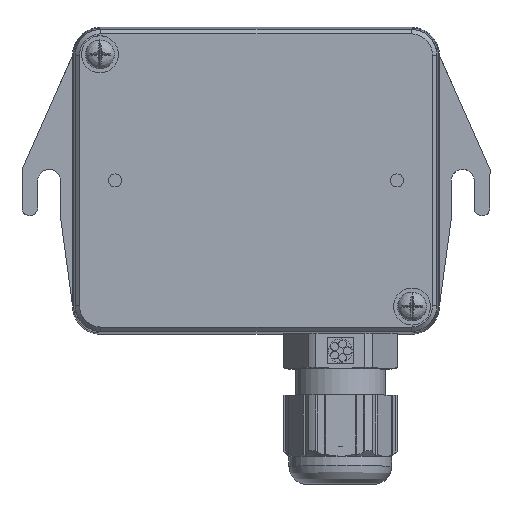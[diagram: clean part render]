
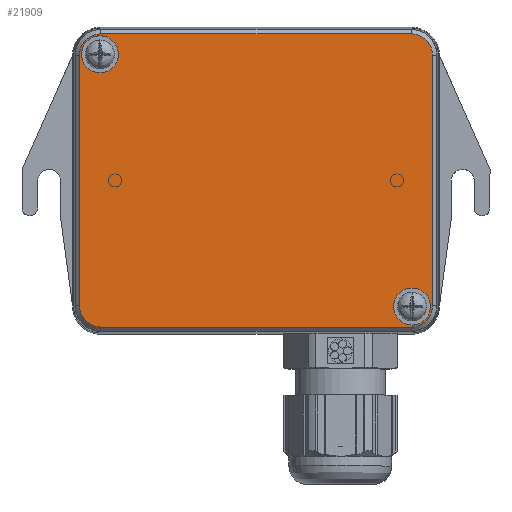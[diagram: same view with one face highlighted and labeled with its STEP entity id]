
A CAD part, top view. The second image highlights one B-rep face of the part: STEP entity #21909.
In plain terms, the highlighted planar face has unit normal (0, 0, 1).
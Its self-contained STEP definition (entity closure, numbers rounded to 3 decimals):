
#504 = DIRECTION ( 'NONE',  ( 1., 0., 0. ) ) ;
#829 = ORIENTED_EDGE ( 'NONE', *, *, #27133, .T. ) ;
#848 = ORIENTED_EDGE ( 'NONE', *, *, #12123, .T. ) ;
#992 = VECTOR ( 'NONE', #26182, 1000. ) ;
#1256 = DIRECTION ( 'NONE',  ( 0., 0., 1. ) ) ;
#1265 = VECTOR ( 'NONE', #10868, 1000. ) ;
#1452 = DIRECTION ( 'NONE',  ( -1., 0., 0. ) ) ;
#1536 = DIRECTION ( 'NONE',  ( -1., 0., 0. ) ) ;
#1568 = AXIS2_PLACEMENT_3D ( 'NONE', #15039, #24292, #3548 ) ;
#1600 = ORIENTED_EDGE ( 'NONE', *, *, #3248, .T. ) ;
#1662 = LINE ( 'NONE', #29191, #1265 ) ;
#1823 = EDGE_CURVE ( 'NONE', #7083, #18347, #1864, .T. ) ;
#1864 = CIRCLE ( 'NONE', #13445, 3.4 ) ;
#1943 = CARTESIAN_POINT ( 'NONE',  ( -32.604, 23.139, 7.571 ) ) ;
#2169 = VERTEX_POINT ( 'NONE', #25012 ) ;
#2172 = DIRECTION ( 'NONE',  ( 0., 0., 1. ) ) ;
#2427 = CARTESIAN_POINT ( 'NONE',  ( 32.27, 23.139, 7.571 ) ) ;
#2431 = VERTEX_POINT ( 'NONE', #2427 ) ;
#3034 = CARTESIAN_POINT ( 'NONE',  ( -0.167, 0.14, 7.571 ) ) ;
#3248 = EDGE_CURVE ( 'NONE', #2431, #23513, #22694, .T. ) ;
#3548 = DIRECTION ( 'NONE',  ( -1., 0., 0. ) ) ;
#4479 = DIRECTION ( 'NONE',  ( -1., 0., 0. ) ) ;
#4884 = DIRECTION ( 'NONE',  ( -1., 0., 0. ) ) ;
#5044 = CIRCLE ( 'NONE', #14680, 3.4 ) ;
#5299 = CIRCLE ( 'NONE', #26560, 3.938 ) ;
#5362 = CARTESIAN_POINT ( 'NONE',  ( 28.332, -26.798, 7.571 ) ) ;
#5728 = CARTESIAN_POINT ( 'NONE',  ( -28.841, 23.314, 7.571 ) ) ;
#5797 = ORIENTED_EDGE ( 'NONE', *, *, #12945, .T. ) ;
#6114 = EDGE_CURVE ( 'NONE', #18860, #18407, #1662, .T. ) ;
#6132 = DIRECTION ( 'NONE',  ( 0., 0., -1. ) ) ;
#6598 = DIRECTION ( 'NONE',  ( 0., 0., 1. ) ) ;
#7083 = VERTEX_POINT ( 'NONE', #10320 ) ;
#7280 = FACE_BOUND ( 'NONE', #25838, .T. ) ;
#7298 = EDGE_LOOP ( 'NONE', ( #14791, #12383 ) ) ;
#7447 = CARTESIAN_POINT ( 'NONE',  ( -32.604, -22.859, 7.571 ) ) ;
#7484 = AXIS2_PLACEMENT_3D ( 'NONE', #16383, #2172, #4884 ) ;
#7495 = CARTESIAN_POINT ( 'NONE',  ( 28.507, -23.034, 7.571 ) ) ;
#7860 = AXIS2_PLACEMENT_3D ( 'NONE', #10655, #6132, #1452 ) ;
#7872 = DIRECTION ( 'NONE',  ( 0., 0., 1. ) ) ;
#8177 = CARTESIAN_POINT ( 'NONE',  ( 32.27, -22.859, 7.571 ) ) ;
#8428 = DIRECTION ( 'NONE',  ( 0., 1., 0. ) ) ;
#8874 = CARTESIAN_POINT ( 'NONE',  ( 32.27, 0.14, 7.571 ) ) ;
#10320 = CARTESIAN_POINT ( 'NONE',  ( 31.907, -23.034, 7.571 ) ) ;
#10407 = DIRECTION ( 'NONE',  ( -1., 0., 0. ) ) ;
#10450 = VERTEX_POINT ( 'NONE', #15453 ) ;
#10655 = CARTESIAN_POINT ( 'NONE',  ( 28.507, -23.034, 7.571 ) ) ;
#10868 = DIRECTION ( 'NONE',  ( 1., 0., 0. ) ) ;
#11642 = EDGE_CURVE ( 'NONE', #23513, #2169, #29864, .T. ) ;
#11718 = CARTESIAN_POINT ( 'NONE',  ( 25.107, -23.034, 7.571 ) ) ;
#11879 = DIRECTION ( 'NONE',  ( -1., 0., 0. ) ) ;
#12106 = FACE_BOUND ( 'NONE', #7298, .T. ) ;
#12123 = EDGE_CURVE ( 'NONE', #18407, #18843, #5299, .T. ) ;
#12383 = ORIENTED_EDGE ( 'NONE', *, *, #1823, .T. ) ;
#12896 = CARTESIAN_POINT ( 'NONE',  ( 28.332, 27.078, 7.571 ) ) ;
#12945 = EDGE_CURVE ( 'NONE', #2169, #20155, #25224, .T. ) ;
#13121 = VERTEX_POINT ( 'NONE', #28081 ) ;
#13445 = AXIS2_PLACEMENT_3D ( 'NONE', #7495, #23405, #11879 ) ;
#14257 = DIRECTION ( 'NONE',  ( -1., 0., 0. ) ) ;
#14352 = EDGE_CURVE ( 'NONE', #10450, #13121, #14593, .T. ) ;
#14593 = CIRCLE ( 'NONE', #1568, 3.4 ) ;
#14680 = AXIS2_PLACEMENT_3D ( 'NONE', #5728, #26618, #10407 ) ;
#14791 = ORIENTED_EDGE ( 'NONE', *, *, #15463, .T. ) ;
#15039 = CARTESIAN_POINT ( 'NONE',  ( -28.841, 23.314, 7.571 ) ) ;
#15175 = AXIS2_PLACEMENT_3D ( 'NONE', #3034, #23642, #504 ) ;
#15453 = CARTESIAN_POINT ( 'NONE',  ( -32.241, 23.314, 7.571 ) ) ;
#15463 = EDGE_CURVE ( 'NONE', #18347, #7083, #15582, .T. ) ;
#15582 = CIRCLE ( 'NONE', #7860, 3.4 ) ;
#15987 = ORIENTED_EDGE ( 'NONE', *, *, #14352, .T. ) ;
#16066 = VERTEX_POINT ( 'NONE', #7447 ) ;
#16383 = CARTESIAN_POINT ( 'NONE',  ( -28.666, -22.859, 7.571 ) ) ;
#16478 = EDGE_CURVE ( 'NONE', #20155, #16066, #16928, .T. ) ;
#16928 = LINE ( 'NONE', #28581, #992 ) ;
#17106 = DIRECTION ( 'NONE',  ( -1., 0., 0. ) ) ;
#18347 = VERTEX_POINT ( 'NONE', #11718 ) ;
#18407 = VERTEX_POINT ( 'NONE', #5362 ) ;
#18843 = VERTEX_POINT ( 'NONE', #8177 ) ;
#18860 = VERTEX_POINT ( 'NONE', #20606 ) ;
#20155 = VERTEX_POINT ( 'NONE', #1943 ) ;
#20308 = CARTESIAN_POINT ( 'NONE',  ( 28.332, -22.859, 7.571 ) ) ;
#20606 = CARTESIAN_POINT ( 'NONE',  ( -28.666, -26.798, 7.571 ) ) ;
#21343 = EDGE_LOOP ( 'NONE', ( #829, #1600, #25003, #5797, #28200, #25884, #26043, #848 ) ) ;
#21909 = ADVANCED_FACE ( 'NONE', ( #7280, #12106, #25910 ), #26744, .T. ) ;
#22694 = CIRCLE ( 'NONE', #26109, 3.938 ) ;
#23405 = DIRECTION ( 'NONE',  ( 0., 0., -1. ) ) ;
#23513 = VERTEX_POINT ( 'NONE', #12896 ) ;
#23642 = DIRECTION ( 'NONE',  ( 0., 0., 1. ) ) ;
#24292 = DIRECTION ( 'NONE',  ( 0., 0., -1. ) ) ;
#24940 = LINE ( 'NONE', #8874, #26305 ) ;
#25003 = ORIENTED_EDGE ( 'NONE', *, *, #11642, .T. ) ;
#25012 = CARTESIAN_POINT ( 'NONE',  ( -28.666, 27.078, 7.571 ) ) ;
#25224 = CIRCLE ( 'NONE', #29541, 3.938 ) ;
#25346 = CARTESIAN_POINT ( 'NONE',  ( -0.167, 27.078, 7.571 ) ) ;
#25838 = EDGE_LOOP ( 'NONE', ( #15987, #28635 ) ) ;
#25884 = ORIENTED_EDGE ( 'NONE', *, *, #27970, .T. ) ;
#25910 = FACE_OUTER_BOUND ( 'NONE', #21343, .T. ) ;
#26043 = ORIENTED_EDGE ( 'NONE', *, *, #6114, .T. ) ;
#26109 = AXIS2_PLACEMENT_3D ( 'NONE', #28611, #7872, #17106 ) ;
#26182 = DIRECTION ( 'NONE',  ( 0., -1., 0. ) ) ;
#26305 = VECTOR ( 'NONE', #8428, 1000. ) ;
#26560 = AXIS2_PLACEMENT_3D ( 'NONE', #20308, #1256, #1536 ) ;
#26618 = DIRECTION ( 'NONE',  ( 0., 0., -1. ) ) ;
#26744 = PLANE ( 'NONE',  #15175 ) ;
#27017 = VECTOR ( 'NONE', #14257, 1000. ) ;
#27036 = EDGE_CURVE ( 'NONE', #13121, #10450, #5044, .T. ) ;
#27133 = EDGE_CURVE ( 'NONE', #18843, #2431, #24940, .T. ) ;
#27350 = CARTESIAN_POINT ( 'NONE',  ( -28.666, 23.139, 7.571 ) ) ;
#27970 = EDGE_CURVE ( 'NONE', #16066, #18860, #29701, .T. ) ;
#28081 = CARTESIAN_POINT ( 'NONE',  ( -25.441, 23.314, 7.571 ) ) ;
#28200 = ORIENTED_EDGE ( 'NONE', *, *, #16478, .T. ) ;
#28581 = CARTESIAN_POINT ( 'NONE',  ( -32.604, 0.14, 7.571 ) ) ;
#28611 = CARTESIAN_POINT ( 'NONE',  ( 28.332, 23.139, 7.571 ) ) ;
#28635 = ORIENTED_EDGE ( 'NONE', *, *, #27036, .T. ) ;
#29191 = CARTESIAN_POINT ( 'NONE',  ( -0.167, -26.798, 7.571 ) ) ;
#29541 = AXIS2_PLACEMENT_3D ( 'NONE', #27350, #6598, #4479 ) ;
#29701 = CIRCLE ( 'NONE', #7484, 3.938 ) ;
#29864 = LINE ( 'NONE', #25346, #27017 ) ;
